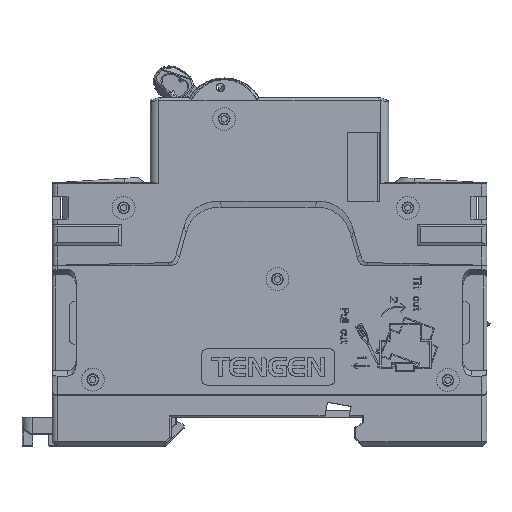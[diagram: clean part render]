
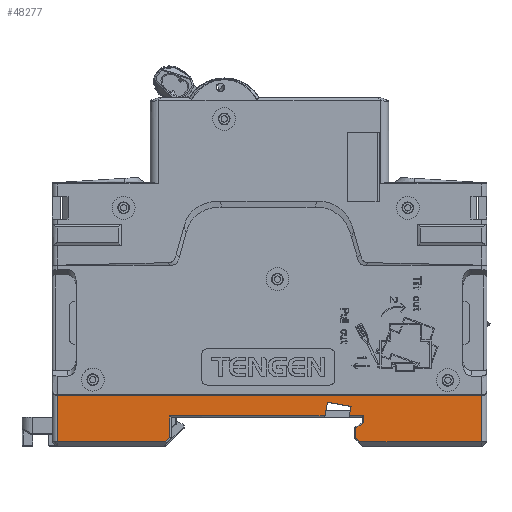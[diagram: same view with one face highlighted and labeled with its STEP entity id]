
A CAD part, top view. The second image highlights one B-rep face of the part: STEP entity #48277.
In plain terms, the highlighted planar face has unit normal (0, 0, 1).
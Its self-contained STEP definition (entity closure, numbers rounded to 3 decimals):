
#8147=DIRECTION('',(0.,-1.,0.));
#8148=VECTOR('',#8147,1.307);
#8149=CARTESIAN_POINT('',(59.655,5.7,3.6));
#8150=LINE('',#8149,#8148);
#8151=DIRECTION('',(1.,0.,0.));
#8152=VECTOR('',#8151,2.695);
#8153=CARTESIAN_POINT('',(56.96,5.7,3.6));
#8154=LINE('',#8153,#8152);
#8243=DIRECTION('',(1.,0.,0.));
#8244=VECTOR('',#8243,29.135);
#8245=CARTESIAN_POINT('',(23.255,5.7,3.6));
#8246=LINE('',#8245,#8244);
#8441=DIRECTION('',(-0.707,-0.707,0.));
#8442=VECTOR('',#8441,1.107);
#8443=CARTESIAN_POINT('',(23.255,1.583,3.6));
#8444=LINE('',#8443,#8442);
#8445=DIRECTION('',(-1.,0.,0.));
#8446=VECTOR('',#8445,20.367);
#8447=CARTESIAN_POINT('',(22.472,0.8,3.6));
#8448=LINE('',#8447,#8446);
#8449=DIRECTION('',(0.,1.,0.));
#8450=VECTOR('',#8449,8.7);
#8451=CARTESIAN_POINT('',(2.105,0.8,3.6));
#8452=LINE('',#8451,#8450);
#8453=DIRECTION('',(1.,0.,0.));
#8454=VECTOR('',#8453,79.7);
#8455=CARTESIAN_POINT('',(2.105,9.5,3.6));
#8456=LINE('',#8455,#8454);
#8457=DIRECTION('',(0.,-1.,0.));
#8458=VECTOR('',#8457,8.7);
#8459=CARTESIAN_POINT('',(81.805,9.5,3.6));
#8460=LINE('',#8459,#8458);
#8461=DIRECTION('',(-0.707,0.707,0.));
#8462=VECTOR('',#8461,1.107);
#8463=CARTESIAN_POINT('',(58.938,0.8,3.6));
#8464=LINE('',#8463,#8462);
#8465=DIRECTION('',(0.834,0.552,0.));
#8466=VECTOR('',#8465,1.799);
#8467=CARTESIAN_POINT('',(58.155,3.4,3.6));
#8468=LINE('',#8467,#8466);
#8469=DIRECTION('',(0.174,0.985,0.));
#8470=VECTOR('',#8469,1.828);
#8471=CARTESIAN_POINT('',(56.96,5.7,3.6));
#8472=LINE('',#8471,#8470);
#8473=DIRECTION('',(-0.985,0.174,0.));
#8474=VECTOR('',#8473,4.5);
#8475=CARTESIAN_POINT('',(57.277,7.5,3.6));
#8476=LINE('',#8475,#8474);
#8477=DIRECTION('',(-0.174,-0.985,0.));
#8478=VECTOR('',#8477,2.621);
#8479=CARTESIAN_POINT('',(52.845,8.281,3.6));
#8480=LINE('',#8479,#8478);
#8527=DIRECTION('',(0.,1.,0.));
#8528=VECTOR('',#8527,4.117);
#8529=CARTESIAN_POINT('',(23.255,1.583,3.6));
#8530=LINE('',#8529,#8528);
#16120=DIRECTION('',(1.,0.,0.));
#16121=VECTOR('',#16120,22.867);
#16122=CARTESIAN_POINT('',(58.938,0.8,
3.6));
#16123=LINE('',#16122,#16121);
#16176=DIRECTION('',(0.,-1.,0.));
#16177=VECTOR('',#16176,1.817);
#16178=CARTESIAN_POINT('',(58.155,3.4,3.6));
#16179=LINE('',#16178,#16177);
#29580=CARTESIAN_POINT('',(23.255,1.583,3.6));
#29581=CARTESIAN_POINT('',(22.472,0.8,
3.6));
#29582=VERTEX_POINT('',#29580);
#29583=VERTEX_POINT('',#29581);
#29584=CARTESIAN_POINT('',(2.105,0.8,
3.6));
#29585=VERTEX_POINT('',#29584);
#29586=CARTESIAN_POINT('',(2.105,9.5,3.6));
#29587=VERTEX_POINT('',#29586);
#29588=CARTESIAN_POINT('',(81.805,9.5,3.6));
#29589=VERTEX_POINT('',#29588);
#29590=CARTESIAN_POINT('',(81.805,0.8,
3.6));
#29591=VERTEX_POINT('',#29590);
#29592=CARTESIAN_POINT('',(58.938,0.8,
3.6));
#29593=VERTEX_POINT('',#29592);
#29594=CARTESIAN_POINT('',(58.155,1.583,3.6));
#29595=VERTEX_POINT('',#29594);
#29596=CARTESIAN_POINT('',(58.155,3.4,3.6));
#29597=VERTEX_POINT('',#29596);
#29598=CARTESIAN_POINT('',(59.655,4.393,3.6));
#29599=VERTEX_POINT('',#29598);
#29600=CARTESIAN_POINT('',(59.655,5.7,3.6));
#29601=VERTEX_POINT('',#29600);
#29602=CARTESIAN_POINT('',(56.96,5.7,3.6));
#29603=VERTEX_POINT('',#29602);
#29604=CARTESIAN_POINT('',(57.277,7.5,3.6));
#29605=VERTEX_POINT('',#29604);
#29606=CARTESIAN_POINT('',(52.845,8.281,3.6));
#29607=VERTEX_POINT('',#29606);
#29608=CARTESIAN_POINT('',(52.39,5.7,3.6));
#29609=VERTEX_POINT('',#29608);
#29610=CARTESIAN_POINT('',(23.255,5.7,3.6));
#29611=VERTEX_POINT('',#29610);
#48244=CARTESIAN_POINT('',(49.555,51.5,3.6));
#48245=DIRECTION('',(0.,0.,1.));
#48246=DIRECTION('',(1.,0.,0.));
#48247=AXIS2_PLACEMENT_3D('',#48244,#48245,#48246);
#48248=PLANE('',#48247);
#48250=ORIENTED_EDGE('',*,*,#48249,.T.);
#48252=ORIENTED_EDGE('',*,*,#48251,.T.);
#48254=ORIENTED_EDGE('',*,*,#48253,.T.);
#48256=ORIENTED_EDGE('',*,*,#48255,.T.);
#48258=ORIENTED_EDGE('',*,*,#48257,.T.);
#48260=ORIENTED_EDGE('',*,*,#48259,.F.);
#48262=ORIENTED_EDGE('',*,*,#48261,.T.);
#48264=ORIENTED_EDGE('',*,*,#48263,.F.);
#48266=ORIENTED_EDGE('',*,*,#48265,.T.);
#48267=ORIENTED_EDGE('',*,*,#47867,.F.);
#48268=ORIENTED_EDGE('',*,*,#47881,.F.);
#48269=ORIENTED_EDGE('',*,*,#47907,.T.);
#48270=ORIENTED_EDGE('',*,*,#48099,.T.);
#48271=ORIENTED_EDGE('',*,*,#47992,.T.);
#48272=ORIENTED_EDGE('',*,*,#47972,.F.);
#48274=ORIENTED_EDGE('',*,*,#48273,.F.);
#48275=EDGE_LOOP('',(#48250,#48252,#48254,#48256,#48258,#48260,#48262,#48264,
#48266,#48267,#48268,#48269,#48270,#48271,#48272,#48274));
#48276=FACE_OUTER_BOUND('',#48275,.F.);
#48277=ADVANCED_FACE('',(#48276),#48248,.T.);
#47867=EDGE_CURVE('',#29601,#29599,#8150,.T.);
#47881=EDGE_CURVE('',#29603,#29601,#8154,.T.);
#47907=EDGE_CURVE('',#29603,#29605,#8472,.T.);
#47972=EDGE_CURVE('',#29611,#29609,#8246,.T.);
#47992=EDGE_CURVE('',#29607,#29609,#8480,.T.);
#48099=EDGE_CURVE('',#29605,#29607,#8476,.T.);
#48249=EDGE_CURVE('',#29582,#29583,#8444,.T.);
#48251=EDGE_CURVE('',#29583,#29585,#8448,.T.);
#48253=EDGE_CURVE('',#29585,#29587,#8452,.T.);
#48255=EDGE_CURVE('',#29587,#29589,#8456,.T.);
#48257=EDGE_CURVE('',#29589,#29591,#8460,.T.);
#48259=EDGE_CURVE('',#29593,#29591,#16123,.T.);
#48261=EDGE_CURVE('',#29593,#29595,#8464,.T.);
#48263=EDGE_CURVE('',#29597,#29595,#16179,.T.);
#48265=EDGE_CURVE('',#29597,#29599,#8468,.T.);
#48273=EDGE_CURVE('',#29582,#29611,#8530,.T.);
